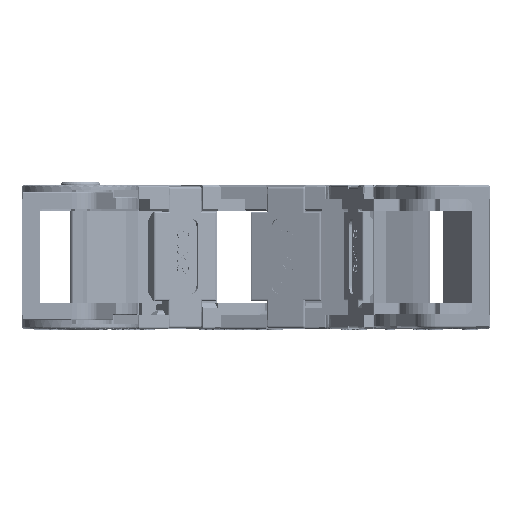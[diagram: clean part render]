
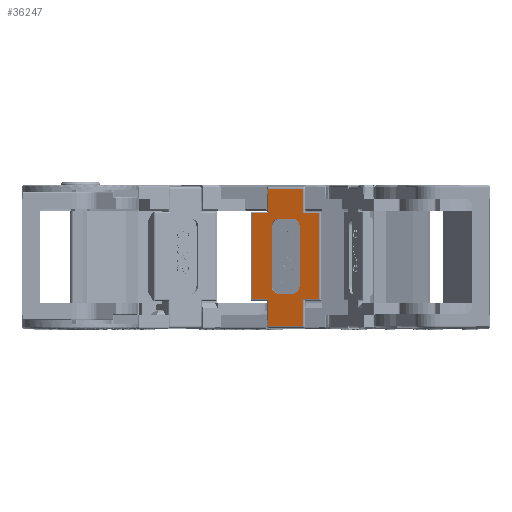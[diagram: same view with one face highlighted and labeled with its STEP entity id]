
A CAD part, left-side view. The second image highlights one B-rep face of the part: STEP entity #36247.
In plain terms, the highlighted planar face has unit normal (-0.937, 0.348, 0).
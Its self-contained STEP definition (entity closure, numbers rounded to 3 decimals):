
#36247=ADVANCED_FACE('',(#101573,#101574),#43901,.T.);
#43901=PLANE('',#284272);
#51048=CIRCLE('',#284268,1.611);
#51049=CIRCLE('',#284269,1.511);
#51050=CIRCLE('',#284270,1.511);
#51051=CIRCLE('',#284271,1.511);
#74239=LINE('',#589025,#98735);
#74240=LINE('',#589030,#98736);
#74241=LINE('',#589034,#98737);
#74242=LINE('',#589038,#98738);
#74243=LINE('',#589041,#98739);
#74244=LINE('',#589044,#98740);
#74245=LINE('',#589046,#98741);
#74246=LINE('',#589048,#98742);
#74247=LINE('',#589050,#98743);
#74248=LINE('',#589052,#98744);
#74249=LINE('',#589054,#98745);
#74250=LINE('',#589056,#98746);
#74251=LINE('',#589058,#98747);
#74252=LINE('',#589060,#98748);
#74253=LINE('',#589062,#98749);
#74254=LINE('',#589064,#98750);
#98735=VECTOR('',#344184,1.);
#98736=VECTOR('',#344187,1.);
#98737=VECTOR('',#344190,1.);
#98738=VECTOR('',#344193,1.);
#98739=VECTOR('',#344196,1.);
#98740=VECTOR('',#344197,1.);
#98741=VECTOR('',#344198,1.);
#98742=VECTOR('',#344199,1.);
#98743=VECTOR('',#344200,1.);
#98744=VECTOR('',#344201,1.);
#98745=VECTOR('',#344202,1.);
#98746=VECTOR('',#344203,1.);
#98747=VECTOR('',#344204,1.);
#98748=VECTOR('',#344205,1.);
#98749=VECTOR('',#344206,1.);
#98750=VECTOR('',#344207,1.);
#101573=FACE_BOUND('',#117178,.T.);
#101574=FACE_BOUND('',#117179,.T.);
#117178=EDGE_LOOP('',(#192133,#192134,#192135,#192136,#192137,#192138,#192139,
#192140));
#117179=EDGE_LOOP('',(#192141,#192142,#192143,#192144,#192145,#192146,#192147,
#192148,#192149,#192150,#192151,#192152));
#192133=ORIENTED_EDGE('',*,*,#257384,.F.);
#192134=ORIENTED_EDGE('',*,*,#257385,.F.);
#192135=ORIENTED_EDGE('',*,*,#257386,.F.);
#192136=ORIENTED_EDGE('',*,*,#257387,.F.);
#192137=ORIENTED_EDGE('',*,*,#257388,.F.);
#192138=ORIENTED_EDGE('',*,*,#257389,.F.);
#192139=ORIENTED_EDGE('',*,*,#257390,.F.);
#192140=ORIENTED_EDGE('',*,*,#257391,.F.);
#192141=ORIENTED_EDGE('',*,*,#257392,.T.);
#192142=ORIENTED_EDGE('',*,*,#257393,.T.);
#192143=ORIENTED_EDGE('',*,*,#257394,.F.);
#192144=ORIENTED_EDGE('',*,*,#257395,.T.);
#192145=ORIENTED_EDGE('',*,*,#257396,.T.);
#192146=ORIENTED_EDGE('',*,*,#257397,.T.);
#192147=ORIENTED_EDGE('',*,*,#257398,.T.);
#192148=ORIENTED_EDGE('',*,*,#257399,.T.);
#192149=ORIENTED_EDGE('',*,*,#257400,.T.);
#192150=ORIENTED_EDGE('',*,*,#257401,.T.);
#192151=ORIENTED_EDGE('',*,*,#257402,.T.);
#192152=ORIENTED_EDGE('',*,*,#257403,.T.);
#219323=VERTEX_POINT('',#589026);
#219324=VERTEX_POINT('',#589027);
#219325=VERTEX_POINT('',#589029);
#219326=VERTEX_POINT('',#589031);
#219327=VERTEX_POINT('',#589033);
#219328=VERTEX_POINT('',#589035);
#219329=VERTEX_POINT('',#589037);
#219330=VERTEX_POINT('',#589039);
#219331=VERTEX_POINT('',#589042);
#219332=VERTEX_POINT('',#589043);
#219333=VERTEX_POINT('',#589045);
#219334=VERTEX_POINT('',#589047);
#219335=VERTEX_POINT('',#589049);
#219336=VERTEX_POINT('',#589051);
#219337=VERTEX_POINT('',#589053);
#219338=VERTEX_POINT('',#589055);
#219339=VERTEX_POINT('',#589057);
#219340=VERTEX_POINT('',#589059);
#219341=VERTEX_POINT('',#589061);
#219342=VERTEX_POINT('',#589063);
#257384=EDGE_CURVE('',#219323,#219324,#74239,.T.);
#257385=EDGE_CURVE('',#219325,#219323,#51048,.T.);
#257386=EDGE_CURVE('',#219326,#219325,#74240,.T.);
#257387=EDGE_CURVE('',#219327,#219326,#51049,.T.);
#257388=EDGE_CURVE('',#219328,#219327,#74241,.T.);
#257389=EDGE_CURVE('',#219329,#219328,#51050,.T.);
#257390=EDGE_CURVE('',#219330,#219329,#74242,.T.);
#257391=EDGE_CURVE('',#219324,#219330,#51051,.T.);
#257392=EDGE_CURVE('',#219331,#219332,#74243,.T.);
#257393=EDGE_CURVE('',#219332,#219333,#74244,.T.);
#257394=EDGE_CURVE('',#219334,#219333,#74245,.T.);
#257395=EDGE_CURVE('',#219334,#219335,#74246,.T.);
#257396=EDGE_CURVE('',#219335,#219336,#74247,.T.);
#257397=EDGE_CURVE('',#219336,#219337,#74248,.T.);
#257398=EDGE_CURVE('',#219337,#219338,#74249,.T.);
#257399=EDGE_CURVE('',#219338,#219339,#74250,.T.);
#257400=EDGE_CURVE('',#219339,#219340,#74251,.T.);
#257401=EDGE_CURVE('',#219340,#219341,#74252,.T.);
#257402=EDGE_CURVE('',#219341,#219342,#74253,.T.);
#257403=EDGE_CURVE('',#219342,#219331,#74254,.T.);
#284268=AXIS2_PLACEMENT_3D('',#589028,#344185,#344186);
#284269=AXIS2_PLACEMENT_3D('',#589032,#344188,#344189);
#284270=AXIS2_PLACEMENT_3D('',#589036,#344191,#344192);
#284271=AXIS2_PLACEMENT_3D('',#589040,#344194,#344195);
#284272=AXIS2_PLACEMENT_3D('',#589065,#344208,#344209);
#344184=DIRECTION('',(0.,0.,-1.));
#344185=DIRECTION('',(-0.937,0.349,0.));
#344186=DIRECTION('',(0.,0.,-1.));
#344187=DIRECTION('',(0.349,0.937,0.));
#344188=DIRECTION('',(-0.937,0.349,0.));
#344189=DIRECTION('',(0.,0.,-1.));
#344190=DIRECTION('',(0.,0.,1.));
#344191=DIRECTION('',(-0.937,0.349,0.));
#344192=DIRECTION('',(0.,0.,-1.));
#344193=DIRECTION('',(-0.349,-0.937,0.));
#344194=DIRECTION('',(-0.937,0.349,0.));
#344195=DIRECTION('',(0.,0.,-1.));
#344196=DIRECTION('',(0.349,0.937,0.));
#344197=DIRECTION('',(0.,0.,1.));
#344198=DIRECTION('',(-0.349,-0.937,0.));
#344199=DIRECTION('',(0.,0.,-1.));
#344200=DIRECTION('',(0.349,0.937,0.));
#344201=DIRECTION('',(0.,0.,-1.));
#344202=DIRECTION('',(-0.349,-0.937,0.));
#344203=DIRECTION('',(0.,0.,-1.));
#344204=DIRECTION('',(-0.349,-0.937,0.));
#344205=DIRECTION('',(0.,0.,1.));
#344206=DIRECTION('',(-0.349,-0.937,0.));
#344207=DIRECTION('',(0.,0.,1.));
#344208=DIRECTION('',(-0.937,0.349,0.));
#344209=DIRECTION('',(0.,0.,1.));
#589025=CARTESIAN_POINT('',(39.201,-38.464,111.47));
#589026=CARTESIAN_POINT('',(39.201,-38.464,96.873));
#589027=CARTESIAN_POINT('',(39.201,-38.464,84.89));
#589028=CARTESIAN_POINT('',(38.639,-39.974,96.873));
#589029=CARTESIAN_POINT('',(38.639,-39.974,98.485));
#589030=CARTESIAN_POINT('',(54.728,3.29,98.485));
#589031=CARTESIAN_POINT('',(37.622,-42.711,98.485));
#589032=CARTESIAN_POINT('',(37.622,-42.711,96.974));
#589033=CARTESIAN_POINT('',(37.095,-44.127,96.974));
#589034=CARTESIAN_POINT('',(37.095,-44.127,111.47));
#589035=CARTESIAN_POINT('',(37.095,-44.127,84.89));
#589036=CARTESIAN_POINT('',(37.622,-42.711,84.89));
#589037=CARTESIAN_POINT('',(37.622,-42.711,83.38));
#589038=CARTESIAN_POINT('',(54.728,3.29,83.38));
#589039=CARTESIAN_POINT('',(38.675,-39.879,83.38));
#589040=CARTESIAN_POINT('',(38.675,-39.879,84.89));
#589041=CARTESIAN_POINT('',(54.728,3.29,99.607));
#589042=CARTESIAN_POINT('',(35.62,-48.093,99.607));
#589043=CARTESIAN_POINT('',(36.839,-44.816,99.607));
#589044=CARTESIAN_POINT('',(36.839,-44.816,107.97));
#589045=CARTESIAN_POINT('',(36.839,-44.816,104.47));
#589046=CARTESIAN_POINT('',(54.728,3.29,104.47));
#589047=CARTESIAN_POINT('',(39.457,-37.774,104.47));
#589048=CARTESIAN_POINT('',(39.457,-37.774,107.97));
#589049=CARTESIAN_POINT('',(39.457,-37.774,99.607));
#589050=CARTESIAN_POINT('',(54.728,3.29,99.607));
#589051=CARTESIAN_POINT('',(40.676,-34.497,99.607));
#589052=CARTESIAN_POINT('',(40.676,-34.497,107.97));
#589053=CARTESIAN_POINT('',(40.676,-34.497,82.258));
#589054=CARTESIAN_POINT('',(54.728,3.29,82.258));
#589055=CARTESIAN_POINT('',(39.457,-37.774,82.258));
#589056=CARTESIAN_POINT('',(39.457,-37.774,111.47));
#589057=CARTESIAN_POINT('',(39.457,-37.774,76.884));
#589058=CARTESIAN_POINT('',(54.728,3.29,76.884));
#589059=CARTESIAN_POINT('',(36.839,-44.816,76.884));
#589060=CARTESIAN_POINT('',(36.839,-44.816,111.47));
#589061=CARTESIAN_POINT('',(36.839,-44.816,82.258));
#589062=CARTESIAN_POINT('',(54.728,3.29,82.258));
#589063=CARTESIAN_POINT('',(35.62,-48.093,82.258));
#589064=CARTESIAN_POINT('',(35.62,-48.093,107.97));
#589065=CARTESIAN_POINT('',(54.728,3.29,107.97));
